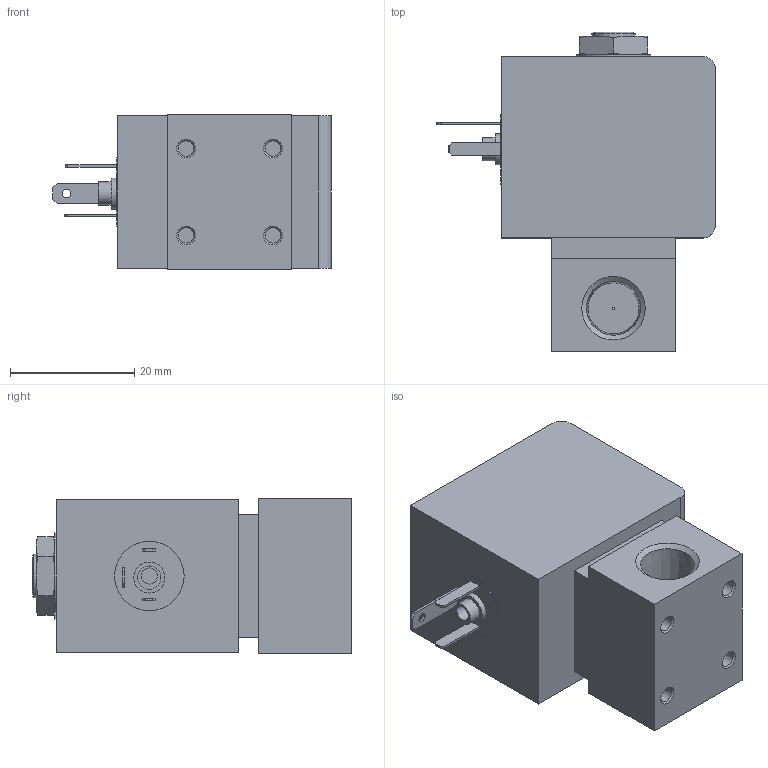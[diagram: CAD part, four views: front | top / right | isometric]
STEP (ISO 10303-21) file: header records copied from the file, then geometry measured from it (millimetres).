
FILE_DESCRIPTION(/* description */ ('STEP AP214'),/* implementation_level */ '2;1');
FILE_NAME(/* name */ '7011-20069586_Plunger_valve_2_2_way_direct_acting',/* time_stamp */ '2025-05-18T14:18:36+02:00',/* author */ ('License CC BY-ND 4.0'),/* organization */ ('CADENAS'),/* preprocessor_version */ 'ST-DEVELOPER v19.3',/* originating_system */ 'PARTsolutions',/* authorisation */ ' ');
FILE_SCHEMA (('AUTOMOTIVE_DESIGN {1 0 10303 214 3 1 1}'));
Length unit declared in the file: millimetre
Products named in the file (1): 7011-20069586 Plunger valve 2/2 way direct acting
Bounding box: 44.9 x 51.55 x 25 mm (x, y, z)
Volume: 32971.4 mm3; surface area: 8031.9 mm2
Topology: 1 solids, 1 shells, 117 faces, 267 edges, 172 vertices
Faces by surface type: plane 78, cone 21, cylinder 18
Full cylindrical faces by diameter (mm): 0.4 x1, 1.4 x1, 2.459 x4, 2.6 x1, 3.75 x1, 5 x1, 7 x1, 9 x1, 11.2 x1
Entity records: 4018 total; most frequent: CARTESIAN_POINT 606, DIRECTION 516, ORIENTED_EDGE 490, EDGE_CURVE 245, AXIS2_PLACEMENT_3D 177, VERTEX_POINT 171, LINE 162, VECTOR 162
